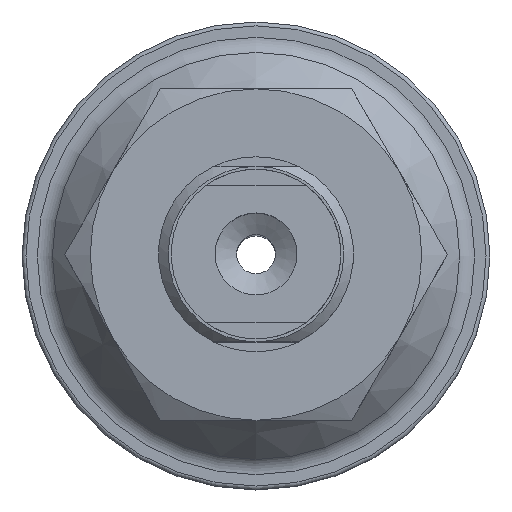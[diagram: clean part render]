
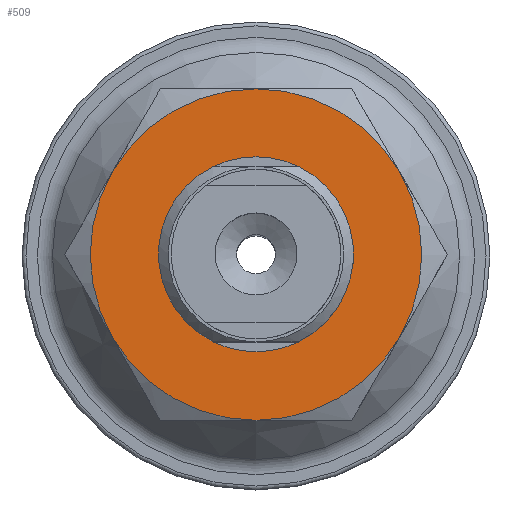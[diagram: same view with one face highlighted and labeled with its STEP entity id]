
A CAD part, top view. The second image highlights one B-rep face of the part: STEP entity #509.
In plain terms, the highlighted planar face has unit normal (0, 0, 1).
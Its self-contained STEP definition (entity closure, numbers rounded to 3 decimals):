
#509=ADVANCED_FACE('',(#721,#722),#723,.T.);
#721=FACE_BOUND('',#1023,.T.);
#722=FACE_OUTER_BOUND('',#1024,.T.);
#723=PLANE('',#1025);
#1023=EDGE_LOOP('',(#1619));
#1024=EDGE_LOOP('',(#1620,#1621,#1622,#1623,#1624,#1625));
#1025=AXIS2_PLACEMENT_3D('',#1626,#1627,#1628);
#1619=ORIENTED_EDGE('',*,*,#2104,.F.);
#1620=ORIENTED_EDGE('',*,*,#2079,.F.);
#1621=ORIENTED_EDGE('',*,*,#2094,.F.);
#1622=ORIENTED_EDGE('',*,*,#2098,.F.);
#1623=ORIENTED_EDGE('',*,*,#2102,.F.);
#1624=ORIENTED_EDGE('',*,*,#2081,.F.);
#1625=ORIENTED_EDGE('',*,*,#2074,.F.);
#1626=CARTESIAN_POINT('',(-9.815,-8.5,4.0));
#1627=DIRECTION('',(0.0,0.0,1.0));
#1628=DIRECTION('',(1.0,0.0,0.0));
#2074=EDGE_CURVE('',#2359,#2346,#2361,.T.);
#2079=EDGE_CURVE('',#2368,#2359,#2371,.T.);
#2081=EDGE_CURVE('',#2346,#2356,#2373,.T.);
#2094=EDGE_CURVE('',#2389,#2368,#2394,.T.);
#2098=EDGE_CURVE('',#2380,#2389,#2398,.T.);
#2102=EDGE_CURVE('',#2356,#2380,#2403,.T.);
#2104=EDGE_CURVE('',#2405,#2405,#2406,.T.);
#2346=VERTEX_POINT('',#2854);
#2356=VERTEX_POINT('',#2881);
#2359=VERTEX_POINT('',#2892);
#2361=CIRCLE('',#2898,8.5);
#2368=VERTEX_POINT('',#2913);
#2371=CIRCLE('',#2920,8.5);
#2373=CIRCLE('',#2926,8.5);
#2380=VERTEX_POINT('',#2942);
#2389=VERTEX_POINT('',#2968);
#2394=CIRCLE('',#2985,8.5);
#2398=CIRCLE('',#2994,8.5);
#2403=CIRCLE('',#2999,8.5);
#2405=VERTEX_POINT('',#3005);
#2406=CIRCLE('',#3006,4.5);
#2854=CARTESIAN_POINT('',(-7.361,4.25,4.0));
#2881=CARTESIAN_POINT('',(0.,8.5,4.0));
#2892=CARTESIAN_POINT('',(-7.361,-4.25,4.0));
#2898=AXIS2_PLACEMENT_3D('',#3336,#3337,#3338);
#2913=CARTESIAN_POINT('',(0.,-8.5,4.0));
#2920=AXIS2_PLACEMENT_3D('',#3342,#3343,#3344);
#2926=AXIS2_PLACEMENT_3D('',#3345,#3346,#3347);
#2942=CARTESIAN_POINT('',(7.361,4.25,4.0));
#2968=CARTESIAN_POINT('',(7.361,-4.25,4.0));
#2985=AXIS2_PLACEMENT_3D('',#3353,#3354,#3355);
#2994=AXIS2_PLACEMENT_3D('',#3360,#3361,#3362);
#2999=AXIS2_PLACEMENT_3D('',#3372,#3373,#3374);
#3005=CARTESIAN_POINT('',(0.0,-4.5,4.0));
#3006=AXIS2_PLACEMENT_3D('',#3375,#3376,#3377);
#3336=CARTESIAN_POINT('',(0.,0.,4.0));
#3337=DIRECTION('',(0.,0.,-1.0));
#3338=DIRECTION('',(0.866,0.5,0.));
#3342=CARTESIAN_POINT('',(0.,0.,4.0));
#3343=DIRECTION('',(0.,0.,-1.0));
#3344=DIRECTION('',(0.866,0.5,0.));
#3345=CARTESIAN_POINT('',(0.,0.,4.0));
#3346=DIRECTION('',(0.,0.,-1.0));
#3347=DIRECTION('',(0.866,0.5,0.));
#3353=CARTESIAN_POINT('',(0.,0.,4.0));
#3354=DIRECTION('',(0.,0.,-1.0));
#3355=DIRECTION('',(0.866,0.5,0.));
#3360=CARTESIAN_POINT('',(0.,0.,4.0));
#3361=DIRECTION('',(0.,0.,-1.0));
#3362=DIRECTION('',(0.866,0.5,0.));
#3372=CARTESIAN_POINT('',(0.,0.,4.0));
#3373=DIRECTION('',(0.,0.,-1.0));
#3374=DIRECTION('',(0.866,0.5,0.));
#3375=CARTESIAN_POINT('',(0.0,0.0,4.0));
#3376=DIRECTION('',(0.0,0.,1.0));
#3377=DIRECTION('',(0.0,-1.0,0.));
